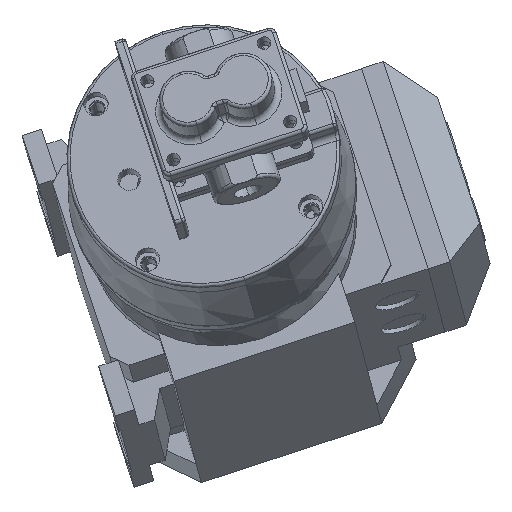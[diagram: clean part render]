
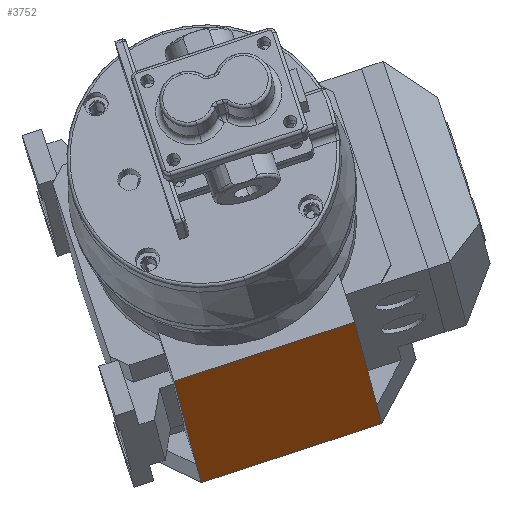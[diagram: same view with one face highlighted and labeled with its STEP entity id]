
A CAD part, top view. The second image highlights one B-rep face of the part: STEP entity #3752.
In plain terms, the highlighted planar face has unit normal (0.301, -0.907, 0.294).
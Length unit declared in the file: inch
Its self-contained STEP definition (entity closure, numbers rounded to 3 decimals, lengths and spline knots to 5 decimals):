
#35 = VECTOR ( 'NONE', #4379, 39.37008 ) ;
#268 = LINE ( 'NONE', #19265, #5039 ) ;
#427 = LINE ( 'NONE', #12440, #14675 ) ;
#467 = LINE ( 'NONE', #8305, #35 ) ;
#1288 = CARTESIAN_POINT ( 'NONE',  ( -1.47946, -7.2517, -0.04576 ) ) ;
#2483 = DIRECTION ( 'NONE',  ( -0.076, 0.284, 0.956 ) ) ;
#2766 = DIRECTION ( 'NONE',  ( 0.301, -0.907, 0.294 ) ) ;
#2836 = CARTESIAN_POINT ( 'NONE',  ( -1.09521, -8.68488, -4.86174 ) ) ;
#3752 = ADVANCED_FACE ( 'NONE', ( #6815 ), #12876, .T. ) ;
#3909 = ORIENTED_EDGE ( 'NONE', *, *, #25387, .F. ) ;
#4379 = DIRECTION ( 'NONE',  ( -0.951, -0.31, 0.016 ) ) ;
#4773 = VERTEX_POINT ( 'NONE', #20483 ) ;
#4788 = CARTESIAN_POINT ( 'NONE',  ( 2.11533, -7.97805, -5.96942 ) ) ;
#5039 = VECTOR ( 'NONE', #18874, 39.37008 ) ;
#6815 = FACE_OUTER_BOUND ( 'NONE', #19252, .T. ) ;
#7171 = CARTESIAN_POINT ( 'NONE',  ( 2.11533, -7.97805, -5.96942 ) ) ;
#8305 = CARTESIAN_POINT ( 'NONE',  ( 1.64703, -6.23136, -0.09996 ) ) ;
#8744 = ORIENTED_EDGE ( 'NONE', *, *, #9632, .T. ) ;
#9632 = EDGE_CURVE ( 'NONE', #4773, #18737, #22758, .T. ) ;
#10240 = CARTESIAN_POINT ( 'NONE',  ( 1.64703, -6.23136, -0.09996 ) ) ;
#10497 = DIRECTION ( 'NONE',  ( 0.951, 0.31, -0.016 ) ) ;
#10608 = VERTEX_POINT ( 'NONE', #24690 ) ;
#11103 = VECTOR ( 'NONE', #2483, 39.37008 ) ;
#11267 = VERTEX_POINT ( 'NONE', #10240 ) ;
#11784 = CARTESIAN_POINT ( 'NONE',  ( 2.11533, -7.97805, -5.96942 ) ) ;
#11965 = EDGE_CURVE ( 'NONE', #11267, #19603, #467, .T. ) ;
#12440 = CARTESIAN_POINT ( 'NONE',  ( -1.01116, -8.99839, -5.91523 ) ) ;
#12775 = CARTESIAN_POINT ( 'NONE',  ( -1.01116, -8.99839, -5.91523 ) ) ;
#12876 = PLANE ( 'NONE',  #20457 ) ;
#12914 = ORIENTED_EDGE ( 'NONE', *, *, #20960, .F. ) ;
#13454 = VECTOR ( 'NONE', #10497, 39.37008 ) ;
#13602 = EDGE_CURVE ( 'NONE', #18737, #10608, #17277, .T. ) ;
#14675 = VECTOR ( 'NONE', #21060, 39.37008 ) ;
#14880 = CARTESIAN_POINT ( 'NONE',  ( -1.09521, -8.68488, -4.86174 ) ) ;
#14994 = DIRECTION ( 'NONE',  ( -0.076, 0.284, 0.956 ) ) ;
#15651 = EDGE_CURVE ( 'NONE', #10608, #11267, #268, .T. ) ;
#16052 = VECTOR ( 'NONE', #14994, 39.37008 ) ;
#17277 = LINE ( 'NONE', #7171, #16052 ) ;
#18737 = VERTEX_POINT ( 'NONE', #11784 ) ;
#18866 = VERTEX_POINT ( 'NONE', #2836 ) ;
#18874 = DIRECTION ( 'NONE',  ( -0.076, 0.284, 0.956 ) ) ;
#19097 = ORIENTED_EDGE ( 'NONE', *, *, #13602, .T. ) ;
#19252 = EDGE_LOOP ( 'NONE', ( #12914, #3909, #8744, #19097, #20334, #22097 ) ) ;
#19265 = CARTESIAN_POINT ( 'NONE',  ( 2.03128, -7.66454, -4.91593 ) ) ;
#19603 = VERTEX_POINT ( 'NONE', #1288 ) ;
#20334 = ORIENTED_EDGE ( 'NONE', *, *, #15651, .T. ) ;
#20457 = AXIS2_PLACEMENT_3D ( 'NONE', #4788, #2766, #25027 ) ;
#20483 = CARTESIAN_POINT ( 'NONE',  ( -1.01116, -8.99839, -5.91523 ) ) ;
#20960 = EDGE_CURVE ( 'NONE', #18866, #19603, #23251, .T. ) ;
#21060 = DIRECTION ( 'NONE',  ( -0.076, 0.284, 0.956 ) ) ;
#22097 = ORIENTED_EDGE ( 'NONE', *, *, #11965, .T. ) ;
#22758 = LINE ( 'NONE', #12775, #13454 ) ;
#23251 = LINE ( 'NONE', #14880, #11103 ) ;
#24690 = CARTESIAN_POINT ( 'NONE',  ( 2.03128, -7.66454, -4.91593 ) ) ;
#25027 = DIRECTION ( 'NONE',  ( 0.076, -0.284, -0.956 ) ) ;
#25387 = EDGE_CURVE ( 'NONE', #4773, #18866, #427, .T. ) ;
